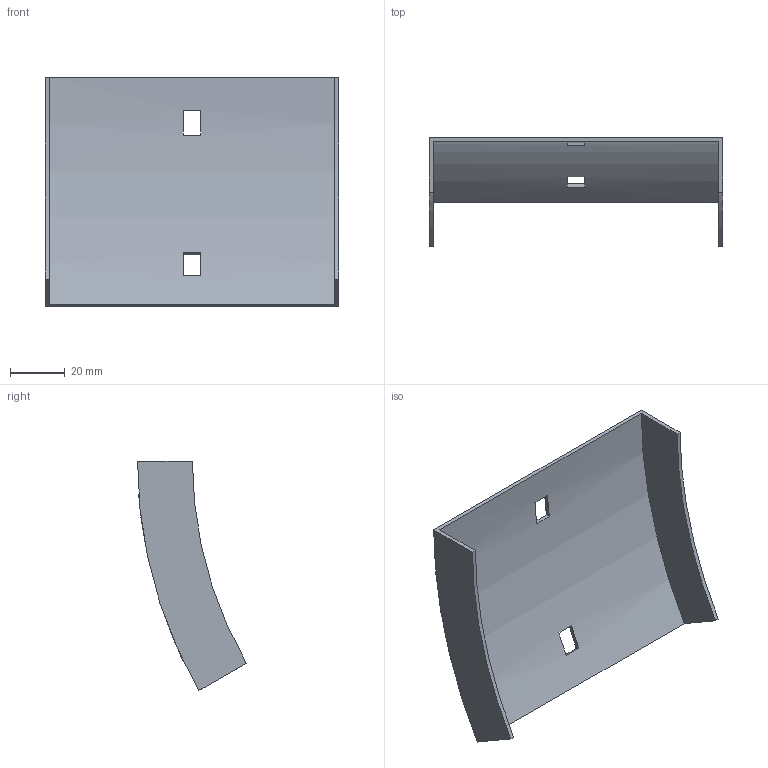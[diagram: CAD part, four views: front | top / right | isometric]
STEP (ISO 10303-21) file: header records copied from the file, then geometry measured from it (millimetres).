
FILE_DESCRIPTION (( 'STEP AP214' ), '1' );
FILE_NAME ('35N1H100.step', '2025-02-21T09:12:24', ( '' ), ( '' ), 'SwSTEP 2.0', 'SolidWorks 2023', '' );
FILE_SCHEMA (( 'AUTOMOTIVE_DESIGN' ));
Length unit declared in the file: millimetre
Products named in the file (1): 35N1H100
Bounding box: 107 x 39.69 x 83.5 mm (x, y, z)
Volume: 18335.4 mm3; surface area: 25204.8 mm2
Topology: 1 solids, 1 shells, 18 faces, 48 edges, 32 vertices
Faces by surface type: plane 14, cylinder 4
Entity records: 599 total; most frequent: DIRECTION 102, CARTESIAN_POINT 99, ORIENTED_EDGE 96, EDGE_CURVE 48, AXIS2_PLACEMENT_3D 35, LINE 32, VERTEX_POINT 32, VECTOR 32
